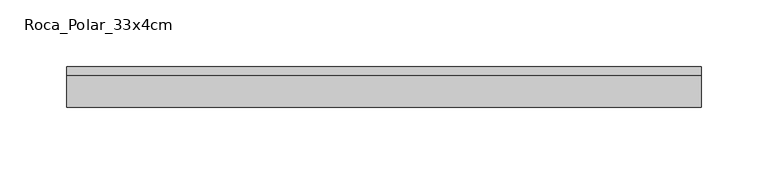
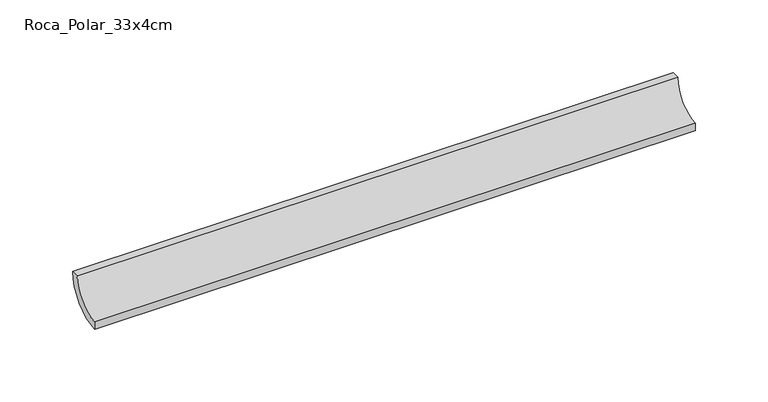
"""IFC4 building model written with IfcOpenShell, lengths in millimetres: proxy geometry, EXAGRES - Piscina Mediacaña : Roca_Polar_33x4cm."""

from ifc_helpers import new_model, si_unit, point, frame, frame_2d, origin, place, context, project, spatial, polyline, circle_curve, trimmed, segment, composite_curve, outline, extrude, source, transform, mapped, element, save


def roca_polar_33x4cm_fa50347c(model_context):
    return source(origin(), model_context, "Body", "SweptSolid", [
        extrude(outline(composite_curve([segment(polyline([(0.0, 23.9), (6.4, 23.9)]), True, "CONTINUOUS"), segment(trimmed(circle_curve(frame_2d((-23.9, 23.9)), 30.3), [point((6.4, 23.9))], [point((-23.9, -6.4))], False, "CARTESIAN"), True, "CONTINUOUS"), segment(polyline([(-23.9, -6.4), (-23.9, 0.0)]), True, "CONTINUOUS"), segment(trimmed(circle_curve(frame_2d((-23.9, 23.9)), 23.9), [point((-23.9, 0.0))], [point((0.0, 23.9))], True, "CARTESIAN"), True, "CONTINUOUS")], self_intersect=False)), frame((23.9, 0.0, 0.0), z_axis=(1.0, 0.0, 0.0), x_axis=(0.0, 1.0, 0.0)), (0.0, 0.0, 1.0), 476.1),
    ])


if __name__ == "__main__":
    model = new_model("IFC4")
    model_context = context("Model", 3, world=origin())
    ifc_project = project(units=[si_unit("LENGTHUNIT", "METRE", prefix="MILLI")], contexts=[model_context])
    site = spatial("IfcSite", under=ifc_project)
    building = spatial("IfcBuilding", under=site)
    placement = place(None, origin())
    roca_polar_33x4cm_shape = roca_polar_33x4cm_fa50347c(model_context)
    element("IfcBuildingElementProxy", 1, Name="EXAGRES - Piscina Mediacaña : Roca_Polar_33x4cm", ObjectType="EXAGRES - Piscina Mediacaña : Roca_Polar_33x4cm", at=placement, inside=building, context=model_context, shape_type="MappedRepresentation", body=[
        mapped(roca_polar_33x4cm_shape, transform((0.0, 0.0, 0.0), x_axis=(1.0, 0.0, 0.0), y_axis=(0.0, 1.0, 0.0), z_axis=(0.0, 0.0, 1.0))),
    ])
    save(model, "model.ifc")
